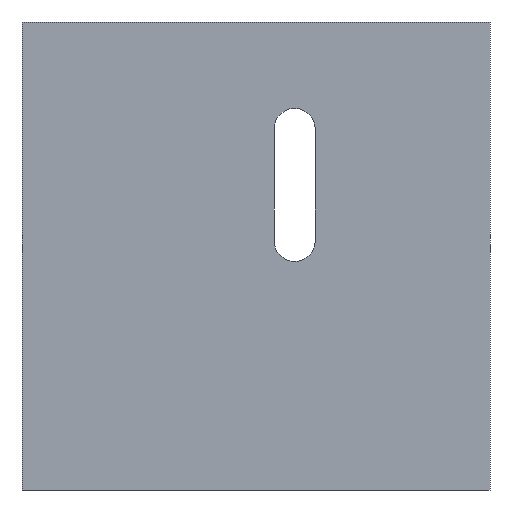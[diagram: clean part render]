
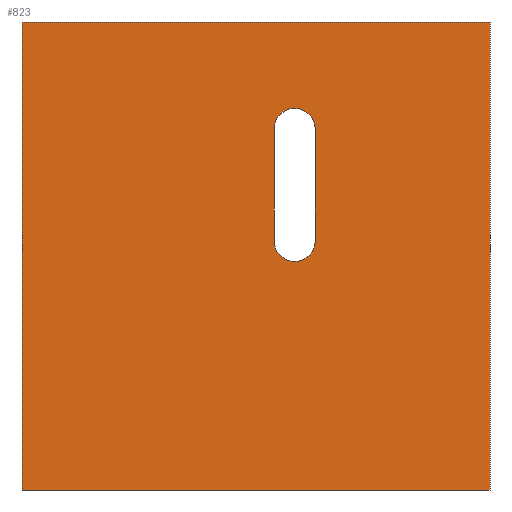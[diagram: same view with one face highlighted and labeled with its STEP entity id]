
A CAD part, front view. The second image highlights one B-rep face of the part: STEP entity #823.
In plain terms, the highlighted planar face has unit normal (0, -1, 0).
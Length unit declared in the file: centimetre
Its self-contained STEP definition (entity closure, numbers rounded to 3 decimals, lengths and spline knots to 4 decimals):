
#16 = CIRCLE ( 'NONE', #616, 43.7122 ) ;
#28 = DIRECTION ( 'NONE',  ( 0., 0., 1. ) ) ;
#38 = LINE ( 'NONE', #400, #474 ) ;
#40 = LINE ( 'NONE', #221, #475 ) ;
#64 = LINE ( 'NONE', #969, #1137 ) ;
#73 = CARTESIAN_POINT ( 'NONE',  ( 582.6703, 0., 771.7738 ) ) ;
#85 = DIRECTION ( 'NONE',  ( 0., 1., 0. ) ) ;
#86 = ORIENTED_EDGE ( 'NONE', *, *, #429, .T. ) ;
#89 = ORIENTED_EDGE ( 'NONE', *, *, #1076, .T. ) ;
#92 = EDGE_CURVE ( 'NONE', #697, #527, #16, .T. ) ;
#103 = EDGE_CURVE ( 'NONE', #709, #697, #40, .T. ) ;
#112 = CARTESIAN_POINT ( 'NONE',  ( 582.6703, 0., 531.8951 ) ) ;
#126 = CIRCLE ( 'NONE', #166, 43.7122 ) ;
#129 = CARTESIAN_POINT ( 'NONE',  ( 582.6703, 0., 815.4859 ) ) ;
#165 = DIRECTION ( 'NONE',  ( 0., 1., 0. ) ) ;
#166 = AXIS2_PLACEMENT_3D ( 'NONE', #322, #165, #522 ) ;
#187 = EDGE_LOOP ( 'NONE', ( #615, #703, #507, #86 ) ) ;
#221 = CARTESIAN_POINT ( 'NONE',  ( 626.3825, 0., 771.7738 ) ) ;
#222 = VECTOR ( 'NONE', #275, 100. ) ;
#234 = DIRECTION ( 'NONE',  ( 1., 0., 0. ) ) ;
#275 = DIRECTION ( 'NONE',  ( 1., 0., 0. ) ) ;
#277 = PLANE ( 'NONE',  #787 ) ;
#281 = CIRCLE ( 'NONE', #1001, 43.7122 ) ;
#310 = DIRECTION ( 'NONE',  ( 0., 0., -1. ) ) ;
#322 = CARTESIAN_POINT ( 'NONE',  ( 582.6703, 0., 771.7738 ) ) ;
#355 = CARTESIAN_POINT ( 'NONE',  ( 538.9581, 0., 531.8951 ) ) ;
#363 = EDGE_CURVE ( 'NONE', #871, #872, #654, .T. ) ;
#389 = CARTESIAN_POINT ( 'NONE',  ( 1000., 0., 0. ) ) ;
#392 = CARTESIAN_POINT ( 'NONE',  ( 0., 0., 1000. ) ) ;
#397 = VECTOR ( 'NONE', #901, 100. ) ;
#400 = CARTESIAN_POINT ( 'NONE',  ( 0., 0., 1000. ) ) ;
#429 = EDGE_CURVE ( 'NONE', #871, #1021, #38, .T. ) ;
#437 = DIRECTION ( 'NONE',  ( 0., 1., 0. ) ) ;
#453 = VERTEX_POINT ( 'NONE', #129 ) ;
#469 = VERTEX_POINT ( 'NONE', #389 ) ;
#474 = VECTOR ( 'NONE', #310, 100. ) ;
#475 = VECTOR ( 'NONE', #755, 100. ) ;
#497 = CARTESIAN_POINT ( 'NONE',  ( 538.9581, 0., 531.8951 ) ) ;
#507 = ORIENTED_EDGE ( 'NONE', *, *, #363, .F. ) ;
#521 = ORIENTED_EDGE ( 'NONE', *, *, #92, .T. ) ;
#522 = DIRECTION ( 'NONE',  ( 0., 0., 1. ) ) ;
#527 = VERTEX_POINT ( 'NONE', #497 ) ;
#543 = DIRECTION ( 'NONE',  ( 0., 0., 1. ) ) ;
#550 = VERTEX_POINT ( 'NONE', #888 ) ;
#565 = EDGE_CURVE ( 'NONE', #453, #709, #126, .T. ) ;
#583 = DIRECTION ( 'NONE',  ( 0., 1., 0. ) ) ;
#602 = EDGE_CURVE ( 'NONE', #550, #453, #281, .T. ) ;
#615 = ORIENTED_EDGE ( 'NONE', *, *, #634, .T. ) ;
#616 = AXIS2_PLACEMENT_3D ( 'NONE', #112, #583, #28 ) ;
#634 = EDGE_CURVE ( 'NONE', #1021, #469, #64, .T. ) ;
#635 = VECTOR ( 'NONE', #1156, 100. ) ;
#645 = CARTESIAN_POINT ( 'NONE',  ( 1000., 0., 1000. ) ) ;
#654 = LINE ( 'NONE', #1006, #222 ) ;
#697 = VERTEX_POINT ( 'NONE', #1086 ) ;
#703 = ORIENTED_EDGE ( 'NONE', *, *, #818, .F. ) ;
#709 = VERTEX_POINT ( 'NONE', #810 ) ;
#715 = LINE ( 'NONE', #645, #397 ) ;
#755 = DIRECTION ( 'NONE',  ( 0., 0., -1. ) ) ;
#776 = EDGE_LOOP ( 'NONE', ( #777, #521, #89, #1106, #883 ) ) ;
#777 = ORIENTED_EDGE ( 'NONE', *, *, #103, .T. ) ;
#787 = AXIS2_PLACEMENT_3D ( 'NONE', #907, #85, #543 ) ;
#789 = LINE ( 'NONE', #355, #635 ) ;
#810 = CARTESIAN_POINT ( 'NONE',  ( 626.3825, 0., 771.7738 ) ) ;
#818 = EDGE_CURVE ( 'NONE', #872, #469, #715, .T. ) ;
#823 = ADVANCED_FACE ( 'NONE', ( #1177, #1002 ), #277, .F. ) ;
#871 = VERTEX_POINT ( 'NONE', #392 ) ;
#872 = VERTEX_POINT ( 'NONE', #1123 ) ;
#883 = ORIENTED_EDGE ( 'NONE', *, *, #565, .T. ) ;
#888 = CARTESIAN_POINT ( 'NONE',  ( 538.9581, 0., 771.7738 ) ) ;
#901 = DIRECTION ( 'NONE',  ( 0., 0., -1. ) ) ;
#907 = CARTESIAN_POINT ( 'NONE',  ( 0., 0., 1000. ) ) ;
#969 = CARTESIAN_POINT ( 'NONE',  ( 0., 0., 0. ) ) ;
#1001 = AXIS2_PLACEMENT_3D ( 'NONE', #73, #437, #1154 ) ;
#1002 = FACE_OUTER_BOUND ( 'NONE', #187, .T. ) ;
#1006 = CARTESIAN_POINT ( 'NONE',  ( 0., 0., 1000. ) ) ;
#1021 = VERTEX_POINT ( 'NONE', #1074 ) ;
#1074 = CARTESIAN_POINT ( 'NONE',  ( 0., 0., 0. ) ) ;
#1076 = EDGE_CURVE ( 'NONE', #527, #550, #789, .T. ) ;
#1086 = CARTESIAN_POINT ( 'NONE',  ( 626.3825, 0., 531.8951 ) ) ;
#1106 = ORIENTED_EDGE ( 'NONE', *, *, #602, .T. ) ;
#1123 = CARTESIAN_POINT ( 'NONE',  ( 1000., 0., 1000. ) ) ;
#1137 = VECTOR ( 'NONE', #234, 100. ) ;
#1154 = DIRECTION ( 'NONE',  ( 0., 0., 1. ) ) ;
#1156 = DIRECTION ( 'NONE',  ( 0., 0., 1. ) ) ;
#1177 = FACE_BOUND ( 'NONE', #776, .T. ) ;
